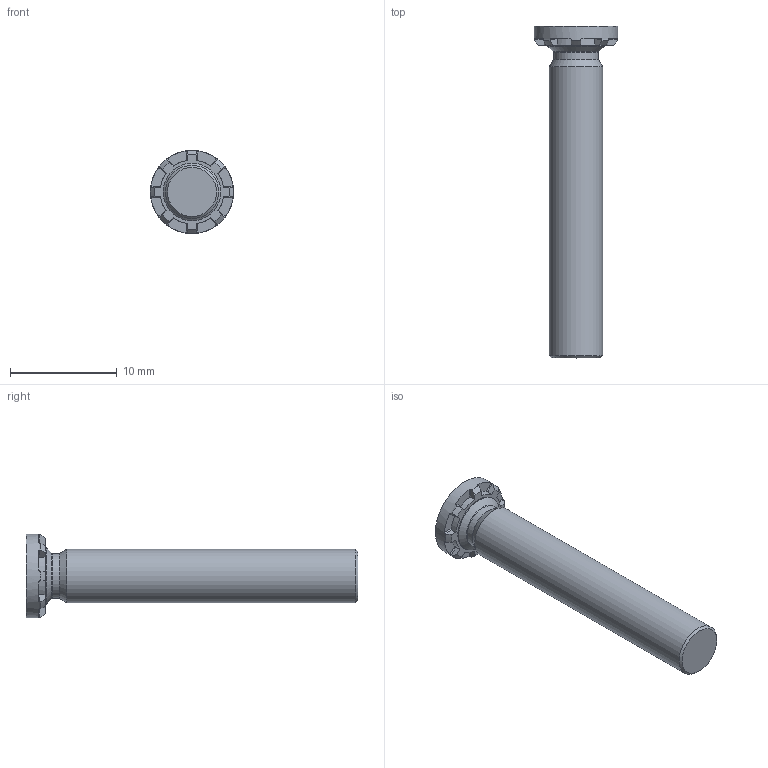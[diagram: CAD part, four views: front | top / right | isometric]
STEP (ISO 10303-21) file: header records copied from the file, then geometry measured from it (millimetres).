
FILE_DESCRIPTION(/* description */ (''),/* implementation_level */ '2;1');
FILE_NAME(/* name */ 'C:\Users\keval.kumar\Desktop\Fastit\Clinch Screw- HFH Range\M5\Clinch Screw-HFH Range_M5x30.stp',/* time_stamp */ '2024-03-12T14:31:35+05:00',/* author */ ('keval.kumar'),/* organization */ (''),/* preprocessor_version */ 'ST-DEVELOPER v18.1',/* originating_system */ 'Autodesk Inventor 2022',/* authorisation */ '');
FILE_SCHEMA (('AUTOMOTIVE_DESIGN { 1 0 10303 214 3 1 1 }'));
Length unit declared in the file: millimetre
Products named in the file (1): Clinch Screw-HFH Range_M5x30
Bounding box: 7.8 x 31.14 x 7.8 mm (x, y, z)
Volume: 645.8 mm3; surface area: 600 mm2
Topology: 1 solids, 1 shells, 68 faces, 193 edges, 128 vertices
Faces by surface type: plane 43, cylinder 12, cone 11, torus 2
Full cylindrical faces by diameter (mm): 4.2 x1, 5 x1, 5.4 x1, 7.8 x1
Entity records: 2278 total; most frequent: CARTESIAN_POINT 422, DIRECTION 405, ORIENTED_EDGE 386, EDGE_CURVE 193, AXIS2_PLACEMENT_3D 159, VERTEX_POINT 128, LINE 87, VECTOR 87
